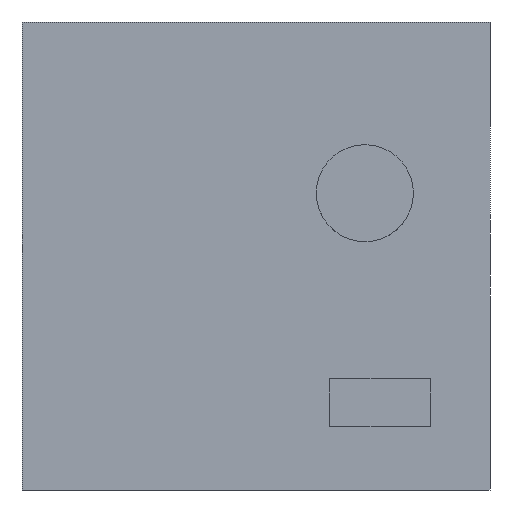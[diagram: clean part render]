
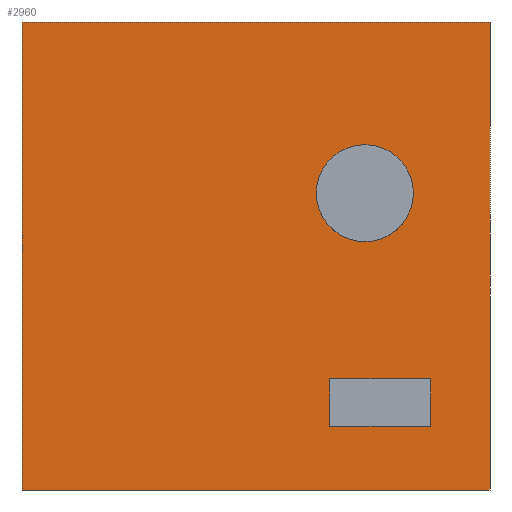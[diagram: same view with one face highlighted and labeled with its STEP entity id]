
A CAD part, left-side view. The second image highlights one B-rep face of the part: STEP entity #2960.
In plain terms, the highlighted planar face has unit normal (-1, 0, 0).
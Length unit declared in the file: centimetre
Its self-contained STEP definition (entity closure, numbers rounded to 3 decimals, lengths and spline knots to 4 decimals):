
#47 = AXIS2_PLACEMENT_3D ( 'NONE', #2941, #998, #2104 ) ;
#142 = DIRECTION ( 'NONE',  ( 0., -1., 0. ) ) ;
#156 = CARTESIAN_POINT ( 'NONE',  ( 0., 127.0871, 136.6282 ) ) ;
#168 = CARTESIAN_POINT ( 'NONE',  ( 0., 127.0871, 237.2317 ) ) ;
#268 = ORIENTED_EDGE ( 'NONE', *, *, #1043, .T. ) ;
#400 = VERTEX_POINT ( 'NONE', #2611 ) ;
#471 = DIRECTION ( 'NONE',  ( 0., -1., 0. ) ) ;
#563 = ORIENTED_EDGE ( 'NONE', *, *, #1320, .F. ) ;
#632 = VECTOR ( 'NONE', #1048, 100. ) ;
#748 = DIRECTION ( 'NONE',  ( -1., 0., 0. ) ) ;
#762 = FACE_OUTER_BOUND ( 'NONE', #3237, .T. ) ;
#768 = VERTEX_POINT ( 'NONE', #2699 ) ;
#778 = ORIENTED_EDGE ( 'NONE', *, *, #1240, .F. ) ;
#855 = CARTESIAN_POINT ( 'NONE',  ( 0., 1000., 0. ) ) ;
#872 = DIRECTION ( 'NONE',  ( 0., -1., 0. ) ) ;
#888 = EDGE_LOOP ( 'NONE', ( #2417, #778, #1609, #2055 ) ) ;
#905 = VERTEX_POINT ( 'NONE', #2714 ) ;
#911 = CARTESIAN_POINT ( 'NONE',  ( 0., 267.399, 530.5089 ) ) ;
#998 = DIRECTION ( 'NONE',  ( 1., 0., 0. ) ) ;
#1016 = CARTESIAN_POINT ( 'NONE',  ( 0., 127.0871, 136.6282 ) ) ;
#1043 = EDGE_CURVE ( 'NONE', #1256, #400, #3275, .T. ) ;
#1048 = DIRECTION ( 'NONE',  ( 0., 0., -1. ) ) ;
#1097 = CARTESIAN_POINT ( 'NONE',  ( 0., 0., 1000. ) ) ;
#1107 = VERTEX_POINT ( 'NONE', #1974 ) ;
#1240 = EDGE_CURVE ( 'NONE', #2768, #2882, #2624, .T. ) ;
#1252 = CARTESIAN_POINT ( 'NONE',  ( 0., 1000., 0. ) ) ;
#1256 = VERTEX_POINT ( 'NONE', #1252 ) ;
#1259 = DIRECTION ( 'NONE',  ( 0., 1., 0. ) ) ;
#1266 = CARTESIAN_POINT ( 'NONE',  ( 0., 342.6291, 136.6282 ) ) ;
#1268 = FACE_BOUND ( 'NONE', #2648, .T. ) ;
#1273 = CARTESIAN_POINT ( 'NONE',  ( 0., 267.399, 634.2283 ) ) ;
#1315 = LINE ( 'NONE', #3499, #3317 ) ;
#1320 = EDGE_CURVE ( 'NONE', #1392, #1107, #1426, .T. ) ;
#1360 = CARTESIAN_POINT ( 'NONE',  ( 0., 342.6291, 136.6282 ) ) ;
#1369 = VECTOR ( 'NONE', #142, 100. ) ;
#1371 = VERTEX_POINT ( 'NONE', #2241 ) ;
#1372 = ORIENTED_EDGE ( 'NONE', *, *, #3327, .F. ) ;
#1392 = VERTEX_POINT ( 'NONE', #911 ) ;
#1426 = CIRCLE ( 'NONE', #2349, 103.7194 ) ;
#1553 = DIRECTION ( 'NONE',  ( 0., 0., 1. ) ) ;
#1609 = ORIENTED_EDGE ( 'NONE', *, *, #2175, .F. ) ;
#1652 = DIRECTION ( 'NONE',  ( 0., 0., 1. ) ) ;
#1755 = EDGE_CURVE ( 'NONE', #768, #905, #1792, .T. ) ;
#1792 = LINE ( 'NONE', #168, #2918 ) ;
#1812 = LINE ( 'NONE', #2637, #2638 ) ;
#1819 = DIRECTION ( 'NONE',  ( 0., 0., -1. ) ) ;
#1832 = AXIS2_PLACEMENT_3D ( 'NONE', #2897, #748, #1553 ) ;
#1974 = CARTESIAN_POINT ( 'NONE',  ( 0., 267.399, 737.9476 ) ) ;
#2055 = ORIENTED_EDGE ( 'NONE', *, *, #1755, .F. ) ;
#2091 = DIRECTION ( 'NONE',  ( -1., 0., 0. ) ) ;
#2104 = DIRECTION ( 'NONE',  ( 0., 0., -1. ) ) ;
#2109 = EDGE_CURVE ( 'NONE', #1371, #1256, #3423, .T. ) ;
#2175 = EDGE_CURVE ( 'NONE', #905, #2768, #3229, .T. ) ;
#2241 = CARTESIAN_POINT ( 'NONE',  ( 0., 1000., 1000. ) ) ;
#2349 = AXIS2_PLACEMENT_3D ( 'NONE', #1273, #2091, #3178 ) ;
#2361 = ORIENTED_EDGE ( 'NONE', *, *, #2109, .T. ) ;
#2417 = ORIENTED_EDGE ( 'NONE', *, *, #3047, .F. ) ;
#2544 = EDGE_CURVE ( 'NONE', #1371, #2751, #1812, .T. ) ;
#2611 = CARTESIAN_POINT ( 'NONE',  ( 0., 0., 0. ) ) ;
#2624 = LINE ( 'NONE', #1016, #1369 ) ;
#2637 = CARTESIAN_POINT ( 'NONE',  ( 0., 1000., 1000. ) ) ;
#2638 = VECTOR ( 'NONE', #471, 100. ) ;
#2648 = EDGE_LOOP ( 'NONE', ( #1372, #563 ) ) ;
#2655 = DIRECTION ( 'NONE',  ( 0., 0., -1. ) ) ;
#2699 = CARTESIAN_POINT ( 'NONE',  ( 0., 127.0871, 237.2317 ) ) ;
#2714 = CARTESIAN_POINT ( 'NONE',  ( 0., 342.6291, 237.2317 ) ) ;
#2751 = VERTEX_POINT ( 'NONE', #1097 ) ;
#2768 = VERTEX_POINT ( 'NONE', #1360 ) ;
#2882 = VERTEX_POINT ( 'NONE', #156 ) ;
#2897 = CARTESIAN_POINT ( 'NONE',  ( 0., 267.399, 634.2283 ) ) ;
#2898 = ORIENTED_EDGE ( 'NONE', *, *, #3290, .F. ) ;
#2918 = VECTOR ( 'NONE', #1259, 100. ) ;
#2921 = VECTOR ( 'NONE', #1819, 100. ) ;
#2941 = CARTESIAN_POINT ( 'NONE',  ( 0., 1000., 1000. ) ) ;
#2943 = ORIENTED_EDGE ( 'NONE', *, *, #2544, .F. ) ;
#2960 = ADVANCED_FACE ( 'NONE', ( #3160, #1268, #762 ), #3446, .F. ) ;
#3047 = EDGE_CURVE ( 'NONE', #2882, #768, #1315, .T. ) ;
#3085 = VECTOR ( 'NONE', #2655, 100. ) ;
#3160 = FACE_BOUND ( 'NONE', #888, .T. ) ;
#3178 = DIRECTION ( 'NONE',  ( 0., 0., 1. ) ) ;
#3229 = LINE ( 'NONE', #1266, #632 ) ;
#3237 = EDGE_LOOP ( 'NONE', ( #268, #2898, #2943, #2361 ) ) ;
#3275 = LINE ( 'NONE', #855, #3429 ) ;
#3290 = EDGE_CURVE ( 'NONE', #2751, #400, #3485, .T. ) ;
#3317 = VECTOR ( 'NONE', #1652, 100. ) ;
#3327 = EDGE_CURVE ( 'NONE', #1107, #1392, #3373, .T. ) ;
#3373 = CIRCLE ( 'NONE', #1832, 103.7194 ) ;
#3423 = LINE ( 'NONE', #3462, #3085 ) ;
#3429 = VECTOR ( 'NONE', #872, 100. ) ;
#3446 = PLANE ( 'NONE',  #47 ) ;
#3452 = CARTESIAN_POINT ( 'NONE',  ( 0., 0., 1000. ) ) ;
#3462 = CARTESIAN_POINT ( 'NONE',  ( 0., 1000., 1000. ) ) ;
#3485 = LINE ( 'NONE', #3452, #2921 ) ;
#3499 = CARTESIAN_POINT ( 'NONE',  ( 0., 127.0871, 136.6282 ) ) ;
